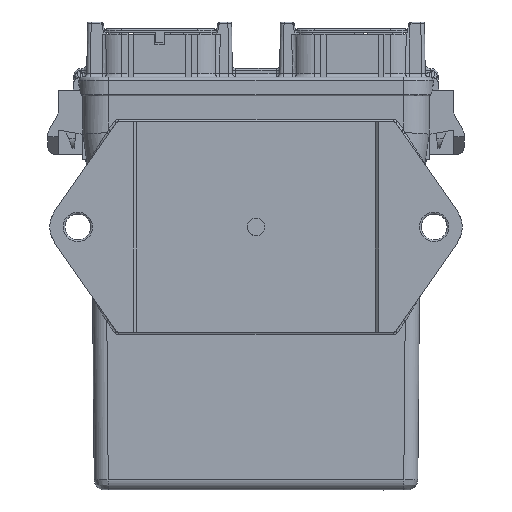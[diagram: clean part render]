
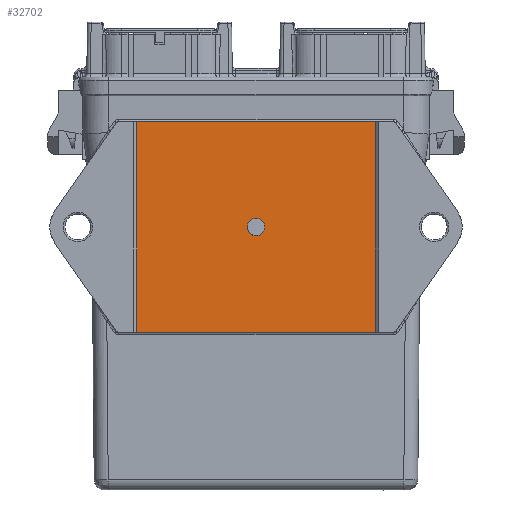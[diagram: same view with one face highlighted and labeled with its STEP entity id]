
A CAD part, front view. The second image highlights one B-rep face of the part: STEP entity #32702.
In plain terms, the highlighted planar face has unit normal (0, -1, 0).
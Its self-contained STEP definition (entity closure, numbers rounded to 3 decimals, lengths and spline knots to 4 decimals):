
#1333=FACE_BOUND('',#3616,.T.);
#1657=FACE_OUTER_BOUND('',#3615,.T.);
#3615=EDGE_LOOP('',(#22565,#22566,#22567,#22568));
#3616=EDGE_LOOP('',(#22569));
#5974=LINE('',#54615,#9113);
#5980=LINE('',#54812,#9119);
#5983=LINE('',#54818,#9122);
#5986=LINE('',#54899,#9125);
#9113=VECTOR('',#38760,2.678);
#9119=VECTOR('',#38778,2.362);
#9122=VECTOR('',#38783,2.678);
#9125=VECTOR('',#38798,2.362);
#12120=CIRCLE('',#34805,0.0985);
#13709=VERTEX_POINT('',#54612);
#13710=VERTEX_POINT('',#54614);
#13712=VERTEX_POINT('',#54811);
#13714=VERTEX_POINT('',#54817);
#13715=VERTEX_POINT('',#54901);
#17027=EDGE_CURVE('',#13709,#13710,#5974,.T.);
#17036=EDGE_CURVE('',#13712,#13710,#5980,.T.);
#17039=EDGE_CURVE('',#13714,#13712,#5983,.T.);
#17045=EDGE_CURVE('',#13714,#13709,#5986,.T.);
#17046=EDGE_CURVE('',#13715,#13715,#12120,.T.);
#22565=ORIENTED_EDGE('',*,*,#17027,.F.);
#22566=ORIENTED_EDGE('',*,*,#17045,.F.);
#22567=ORIENTED_EDGE('',*,*,#17039,.T.);
#22568=ORIENTED_EDGE('',*,*,#17036,.T.);
#22569=ORIENTED_EDGE('',*,*,#17046,.T.);
#31625=PLANE('',#34804);
#32702=ADVANCED_FACE('',(#1657,#1333),#31625,.F.);
#34804=AXIS2_PLACEMENT_3D('',#54900,#38799,#38800);
#34805=AXIS2_PLACEMENT_3D('',#54902,#38801,#38802);
#38760=DIRECTION('',(-1.,0.,0.));
#38778=DIRECTION('',(0.,0.,-1.));
#38783=DIRECTION('',(-1.,0.,0.));
#38798=DIRECTION('',(0.,0.,-1.));
#38799=DIRECTION('center_axis',(0.,1.,0.));
#38800=DIRECTION('ref_axis',(-1.,0.,0.));
#38801=DIRECTION('center_axis',(0.,1.,0.));
#38802=DIRECTION('ref_axis',(-1.,0.,0.));
#54612=CARTESIAN_POINT('',(1.339,-0.689,-2.716));
#54614=CARTESIAN_POINT('',(-1.339,-0.689,-2.716));
#54615=CARTESIAN_POINT('',(1.339,-0.689,-2.716));
#54811=CARTESIAN_POINT('',(-1.339,-0.689,-0.354));
#54812=CARTESIAN_POINT('',(-1.339,-0.689,-0.354));
#54817=CARTESIAN_POINT('',(1.339,-0.689,-0.354));
#54818=CARTESIAN_POINT('',(1.339,-0.689,-0.354));
#54899=CARTESIAN_POINT('',(1.339,-0.689,-0.354));
#54900=CARTESIAN_POINT('Origin',(1.339,-0.689,-0.354));
#54901=CARTESIAN_POINT('',(0.0985,-0.689,-1.535));
#54902=CARTESIAN_POINT('Origin',(0.,-0.689,-1.535));
